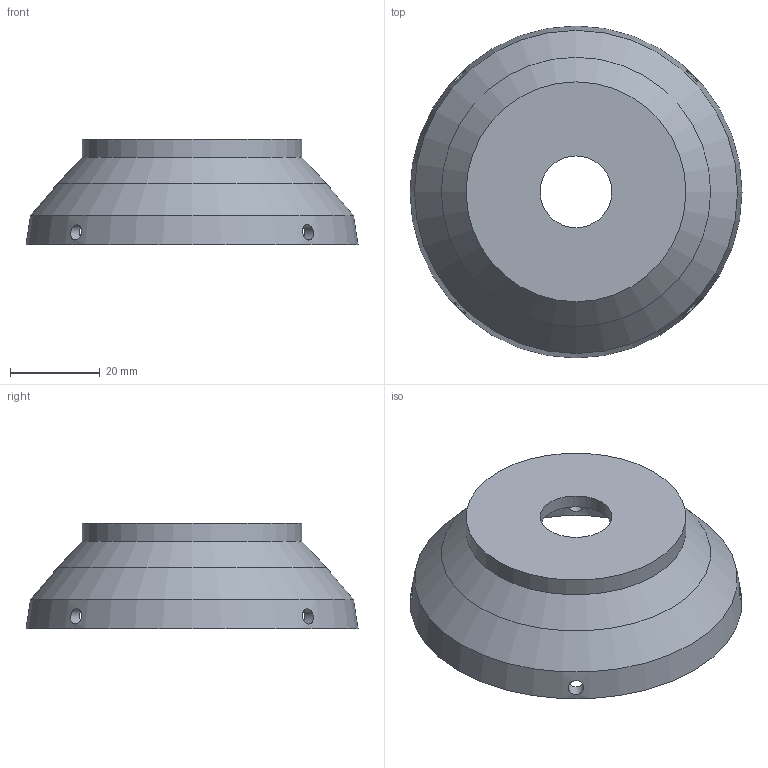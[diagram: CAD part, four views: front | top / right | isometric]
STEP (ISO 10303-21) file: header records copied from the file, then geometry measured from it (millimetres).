
FILE_DESCRIPTION(('FreeCAD Model'),'2;1');
FILE_NAME('Open CASCADE Shape Model','2026-09-19T21:01:32',('FreeCAD'),( 'FreeCAD'),'Open CASCADE STEP processor 7.8','FreeCAD','Unknown');
FILE_SCHEMA(('AUTOMOTIVE_DESIGN { 1 0 10303 214 1 1 1 1 }'));
Length unit declared in the file: millimetre
Products named in the file (1): Open CASCADE STEP translator 7.8 7
Bounding box: 74 x 74 x 23.6 mm (x, y, z)
Volume: 16163.3 mm3; surface area: 14048.2 mm2
Topology: 1 solids, 1 shells, 16 faces, 33 edges, 20 vertices
Faces by surface type: cylinder 8, cone 5, plane 3
Full cylindrical faces by diameter (mm): 3.4 x4, 16 x1, 46.6 x1, 49 x1, 67.6 x1
Entity records: 1116 total; most frequent: CARTESIAN_POINT 753, DIRECTION 70, ORIENTED_EDGE 66, EDGE_CURVE 33, AXIS2_PLACEMENT_3D 29, FACE_BOUND 27, EDGE_LOOP 27, VERTEX_POINT 20
